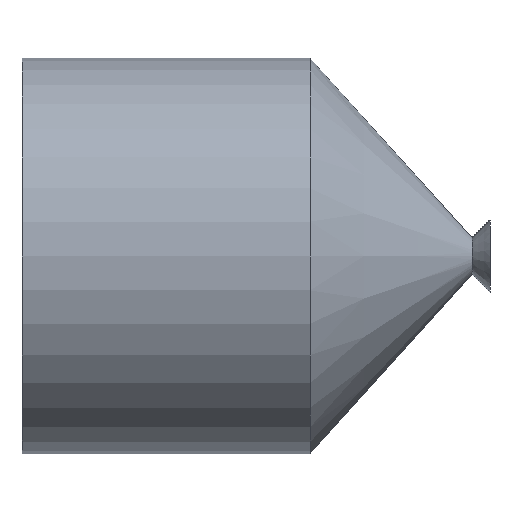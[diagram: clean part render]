
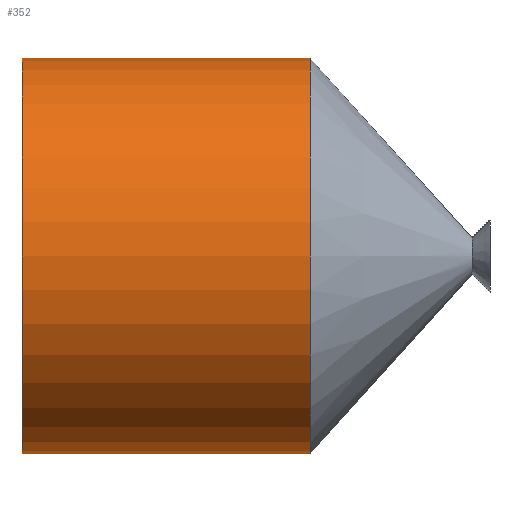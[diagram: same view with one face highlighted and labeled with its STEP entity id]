
A CAD part, left-side view. The second image highlights one B-rep face of the part: STEP entity #352.
In plain terms, the highlighted cylindrical face has radius 5.5 mm (diameter 11 mm), a partial arc.
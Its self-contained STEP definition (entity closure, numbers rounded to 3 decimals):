
#12 = VECTOR ( 'NONE', #484, 1000. ) ;
#35 = AXIS2_PLACEMENT_3D ( 'NONE', #107, #262, #56 ) ;
#42 = EDGE_CURVE ( 'NONE', #306, #81, #232, .T. ) ;
#51 = CARTESIAN_POINT ( 'NONE',  ( 0., 5., -5.5 ) ) ;
#56 = DIRECTION ( 'NONE',  ( 0., 0., -1. ) ) ;
#72 = VERTEX_POINT ( 'NONE', #251 ) ;
#81 = VERTEX_POINT ( 'NONE', #51 ) ;
#107 = CARTESIAN_POINT ( 'NONE',  ( 0., 13., 0. ) ) ;
#110 = CARTESIAN_POINT ( 'NONE',  ( 0., 5., 5.5 ) ) ;
#144 = DIRECTION ( 'NONE',  ( 0., 0., -1. ) ) ;
#168 = DIRECTION ( 'NONE',  ( 0., -1., 0. ) ) ;
#172 = ORIENTED_EDGE ( 'NONE', *, *, #499, .T. ) ;
#202 = CIRCLE ( 'NONE', #35, 5.5 ) ;
#227 = CARTESIAN_POINT ( 'NONE',  ( 0., 5., 0. ) ) ;
#228 = VECTOR ( 'NONE', #168, 1000. ) ;
#232 = CIRCLE ( 'NONE', #345, 5.5 ) ;
#238 = EDGE_CURVE ( 'NONE', #72, #300, #202, .T. ) ;
#251 = CARTESIAN_POINT ( 'NONE',  ( 0., 13., 5.5 ) ) ;
#253 = LINE ( 'NONE', #361, #228 ) ;
#260 = ORIENTED_EDGE ( 'NONE', *, *, #482, .F. ) ;
#262 = DIRECTION ( 'NONE',  ( 0., -1., 0. ) ) ;
#291 = ORIENTED_EDGE ( 'NONE', *, *, #42, .F. ) ;
#293 = EDGE_LOOP ( 'NONE', ( #260, #437, #172, #291 ) ) ;
#300 = VERTEX_POINT ( 'NONE', #387 ) ;
#306 = VERTEX_POINT ( 'NONE', #110 ) ;
#318 = CYLINDRICAL_SURFACE ( 'NONE', #479, 5.5 ) ;
#325 = DIRECTION ( 'NONE',  ( 0., -1., 0. ) ) ;
#345 = AXIS2_PLACEMENT_3D ( 'NONE', #227, #325, #144 ) ;
#352 = ADVANCED_FACE ( 'NONE', ( #400 ), #318, .T. ) ;
#361 = CARTESIAN_POINT ( 'NONE',  ( 0., 0., -5.5 ) ) ;
#387 = CARTESIAN_POINT ( 'NONE',  ( 0., 13., -5.5 ) ) ;
#400 = FACE_OUTER_BOUND ( 'NONE', #293, .T. ) ;
#410 = DIRECTION ( 'NONE',  ( 0., -1., 0. ) ) ;
#437 = ORIENTED_EDGE ( 'NONE', *, *, #238, .T. ) ;
#463 = LINE ( 'NONE', #507, #12 ) ;
#474 = DIRECTION ( 'NONE',  ( 0., 0., -1. ) ) ;
#479 = AXIS2_PLACEMENT_3D ( 'NONE', #497, #410, #474 ) ;
#482 = EDGE_CURVE ( 'NONE', #72, #306, #463, .T. ) ;
#484 = DIRECTION ( 'NONE',  ( 0., -1., 0. ) ) ;
#497 = CARTESIAN_POINT ( 'NONE',  ( 0., 0., 0. ) ) ;
#499 = EDGE_CURVE ( 'NONE', #300, #81, #253, .T. ) ;
#507 = CARTESIAN_POINT ( 'NONE',  ( 0., 0., 5.5 ) ) ;
